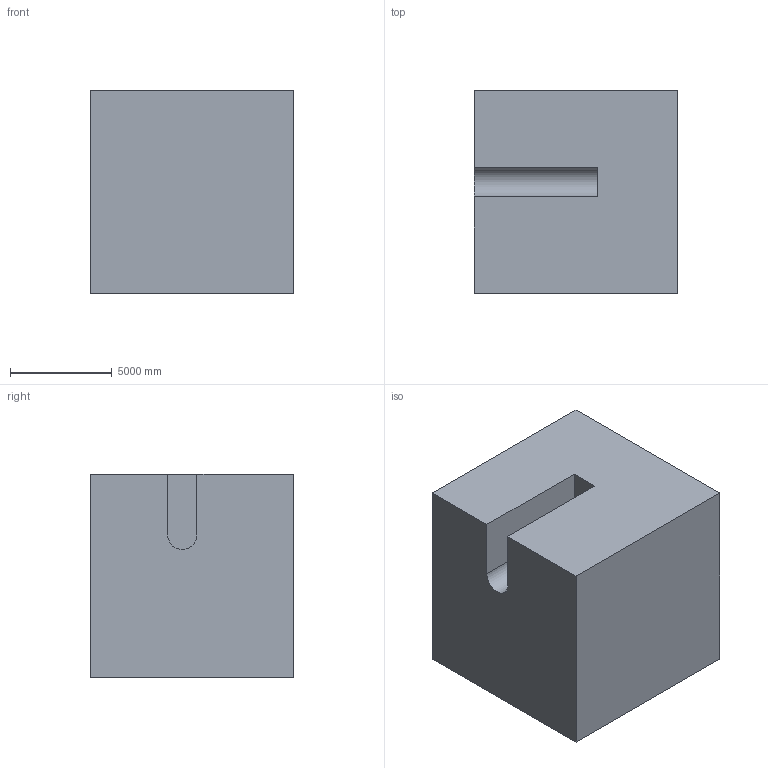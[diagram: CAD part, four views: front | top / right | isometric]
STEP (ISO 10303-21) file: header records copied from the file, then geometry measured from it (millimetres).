
FILE_DESCRIPTION (( 'STEP AP203' ), '1' );
FILE_NAME ('1144.STEP', '2022-08-18T12:56:06', ( 'user' ), ( '' ), 'SwSTEP 2.0', 'SolidWorks 2021', '' );
FILE_SCHEMA (( 'CONFIG_CONTROL_DESIGN' ));
Length unit declared in the file: centimetre
Products named in the file (1): 1144
Bounding box: 10000 x 10000 x 10000 mm (x, y, z)
Volume: 964812369997.2 mm3; surface area: 663648891.3 mm2
Topology: 1 solids, 1 shells, 14 faces, 33 edges, 22 vertices
Faces by surface type: plane 13, cylinder 1
Entity records: 476 total; most frequent: CARTESIAN_POINT 70, ORIENTED_EDGE 66, DIRECTION 65, EDGE_CURVE 33, VECTOR 31, LINE 31, VERTEX_POINT 22, AXIS2_PLACEMENT_3D 17
